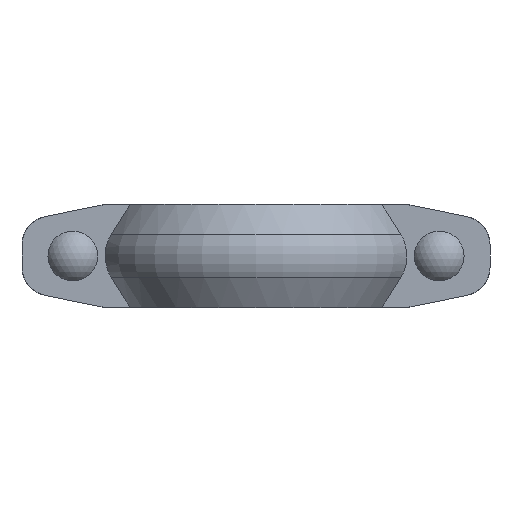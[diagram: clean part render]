
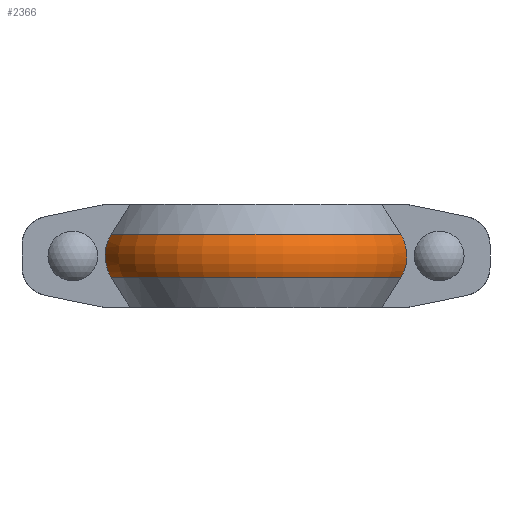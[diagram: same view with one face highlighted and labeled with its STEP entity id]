
A CAD part, front view. The second image highlights one B-rep face of the part: STEP entity #2366.
In plain terms, the highlighted toroidal (fillet/blend) face has major radius 64.313 mm and minor radius 24.587 mm.
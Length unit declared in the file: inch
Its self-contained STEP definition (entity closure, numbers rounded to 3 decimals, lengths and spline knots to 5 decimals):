
#47=TOROIDAL_SURFACE('',#2622,2.53199,0.96801);
#77=B_SPLINE_CURVE_WITH_KNOTS('',3,(#4502,#4503,#4504,#4505,#4506,#4507,
#4508,#4509,#4510,#4511,#4512,#4513,#4514,#4515,#4516),.UNSPECIFIED.,.F.,
 .F.,(4,2,2,3,2,2,4),(-1.17474,-0.88464,-0.44232,
0.,0.44232,0.88464,1.17474),.UNSPECIFIED.);
#80=B_SPLINE_CURVE_WITH_KNOTS('',3,(#4533,#4534,#4535,#4536,#4537,#4538,
#4539,#4540,#4541,#4542,#4543,#4544,#4545,#4546,#4547),.UNSPECIFIED.,.F.,
 .F.,(4,2,2,3,2,2,4),(-1.17474,-0.88464,-0.44232,
0.,0.44232,0.88464,1.17474),.UNSPECIFIED.);
#321=FACE_OUTER_BOUND('',#457,.T.);
#457=EDGE_LOOP('',(#2044,#2045,#2046,#2047));
#879=CIRCLE('',#2614,3.38071);
#884=CIRCLE('',#2623,3.38071);
#1085=VERTEX_POINT('',#4496);
#1086=VERTEX_POINT('',#4501);
#1089=VERTEX_POINT('',#4527);
#1090=VERTEX_POINT('',#4532);
#1398=EDGE_CURVE('',#1086,#1085,#77,.T.);
#1402=EDGE_CURVE('',#1090,#1089,#80,.T.);
#1415=EDGE_CURVE('',#1086,#1089,#879,.T.);
#1420=EDGE_CURVE('',#1090,#1085,#884,.T.);
#2044=ORIENTED_EDGE('',*,*,#1402,.T.);
#2045=ORIENTED_EDGE('',*,*,#1415,.F.);
#2046=ORIENTED_EDGE('',*,*,#1398,.T.);
#2047=ORIENTED_EDGE('',*,*,#1420,.F.);
#2366=ADVANCED_FACE('',(#321),#47,.T.);
#2614=AXIS2_PLACEMENT_3D('',#4600,#3255,#3256);
#2622=AXIS2_PLACEMENT_3D('',#4608,#3271,#3272);
#2623=AXIS2_PLACEMENT_3D('',#4609,#3273,#3274);
#3255=DIRECTION('center_axis',(0.,0.,-1.));
#3256=DIRECTION('ref_axis',(0.,1.,0.));
#3271=DIRECTION('center_axis',(0.,0.,-1.));
#3272=DIRECTION('ref_axis',(1.,0.,0.));
#3273=DIRECTION('center_axis',(0.,0.,1.));
#3274=DIRECTION('ref_axis',(0.,1.,0.));
#4496=CARTESIAN_POINT('',(3.13713,-1.26,0.46553));
#4501=CARTESIAN_POINT('',(3.13713,-1.26,-0.46553));
#4502=CARTESIAN_POINT('Ctrl Pts',(3.13713,-1.26,-0.46553));
#4503=CARTESIAN_POINT('Ctrl Pts',(3.15802,-1.26,-0.4302));
#4504=CARTESIAN_POINT('Ctrl Pts',(3.17613,-1.26,-0.39414));
#4505=CARTESIAN_POINT('Ctrl Pts',(3.21407,-1.26,-0.30583));
#4506=CARTESIAN_POINT('Ctrl Pts',(3.23373,-1.26,-0.24529));
#4507=CARTESIAN_POINT('Ctrl Pts',(3.25936,-1.26,-0.1214));
#4508=CARTESIAN_POINT('Ctrl Pts',(3.26533,-1.26,-0.05805));
#4509=CARTESIAN_POINT('Ctrl Pts',(3.26533,-1.26,0.));
#4510=CARTESIAN_POINT('Ctrl Pts',(3.26533,-1.26,0.05805));
#4511=CARTESIAN_POINT('Ctrl Pts',(3.25936,-1.26,0.1214));
#4512=CARTESIAN_POINT('Ctrl Pts',(3.23373,-1.26,0.24529));
#4513=CARTESIAN_POINT('Ctrl Pts',(3.21407,-1.26,0.30583));
#4514=CARTESIAN_POINT('Ctrl Pts',(3.17613,-1.26,0.39414));
#4515=CARTESIAN_POINT('Ctrl Pts',(3.15802,-1.26,0.4302));
#4516=CARTESIAN_POINT('Ctrl Pts',(3.13713,-1.26,0.46553));
#4527=CARTESIAN_POINT('',(-3.13713,-1.26,-0.46553));
#4532=CARTESIAN_POINT('',(-3.13713,-1.26,0.46553));
#4533=CARTESIAN_POINT('Ctrl Pts',(-3.13713,-1.26,0.46553));
#4534=CARTESIAN_POINT('Ctrl Pts',(-3.15802,-1.26,0.4302));
#4535=CARTESIAN_POINT('Ctrl Pts',(-3.17613,-1.26,0.39414));
#4536=CARTESIAN_POINT('Ctrl Pts',(-3.21407,-1.26,0.30583));
#4537=CARTESIAN_POINT('Ctrl Pts',(-3.23373,-1.26,0.24529));
#4538=CARTESIAN_POINT('Ctrl Pts',(-3.25936,-1.26,0.1214));
#4539=CARTESIAN_POINT('Ctrl Pts',(-3.26533,-1.26,0.05805));
#4540=CARTESIAN_POINT('Ctrl Pts',(-3.26533,-1.26,0.));
#4541=CARTESIAN_POINT('Ctrl Pts',(-3.26533,-1.26,-0.05805));
#4542=CARTESIAN_POINT('Ctrl Pts',(-3.25936,-1.26,-0.1214));
#4543=CARTESIAN_POINT('Ctrl Pts',(-3.23373,-1.26,-0.24529));
#4544=CARTESIAN_POINT('Ctrl Pts',(-3.21407,-1.26,-0.30583));
#4545=CARTESIAN_POINT('Ctrl Pts',(-3.17613,-1.26,-0.39414));
#4546=CARTESIAN_POINT('Ctrl Pts',(-3.15802,-1.26,-0.4302));
#4547=CARTESIAN_POINT('Ctrl Pts',(-3.13713,-1.26,-0.46553));
#4600=CARTESIAN_POINT('Origin',(0.,0.,-0.46553));
#4608=CARTESIAN_POINT('Origin',(0.,0.,0.));
#4609=CARTESIAN_POINT('Origin',(0.,0.,0.46553));
